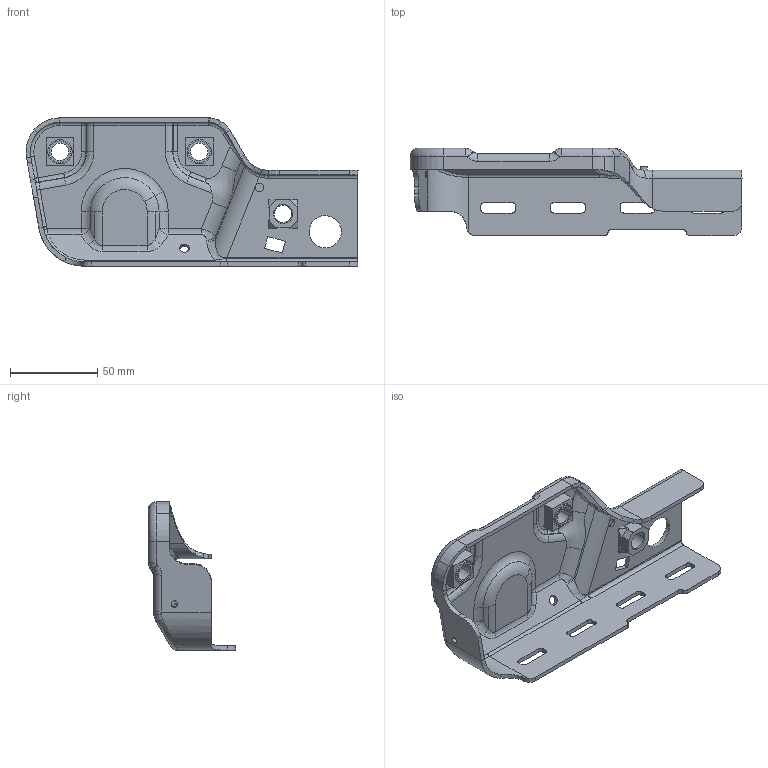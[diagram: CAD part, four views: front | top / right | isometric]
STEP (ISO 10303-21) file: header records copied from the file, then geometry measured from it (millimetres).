
FILE_DESCRIPTION(('CATIA V5 STEP Exchange'),'2;1');
FILE_NAME('C:\Users\nobody\Desktop\SHT0012268_C.stp','2024-03-05T02:08:10+00:00',('none'),('none'),'CATIA Version 5 Release 20 GA (IN-10)','CATIA V5 STEP AP203 Edition 2','none');
FILE_SCHEMA(('AP203_CONFIGURATION_CONTROLLED_3D_DESIGN_OF_MECHANICAL_PARTS_AND_ASSEMBLIES_MIM_LF { 1 0 10303 403 2 1 2}'));
Length unit declared in the file: millimetre
Products named in the file (4): SHT0012268; Q37110; H4B-6805326; SHT0012266
Assembly tree (4 placements, depth 2):
  SHT0012268
    Q37110  x2
    H4B-6805326
    SHT0012266
Bounding box: 190.7 x 50 x 85.19 mm (x, y, z)
Volume: 59918.2 mm3; surface area: 50755.5 mm2
Topology: 4 solids, 4 shells, 381 faces, 977 edges, 605 vertices
Faces by surface type: cylinder 145, plane 112, bspline 59, torus 22, cone 19, extrusion 14, revolution 6, sphere 4
Entity records: 26934 total; most frequent: CARTESIAN_POINT 19162, ORIENTED_EDGE 1826, DIRECTION 1123, EDGE_CURVE 913, VERTEX_POINT 565, AXIS2_PLACEMENT_3D 477, EDGE_LOOP 386, VECTOR 377
